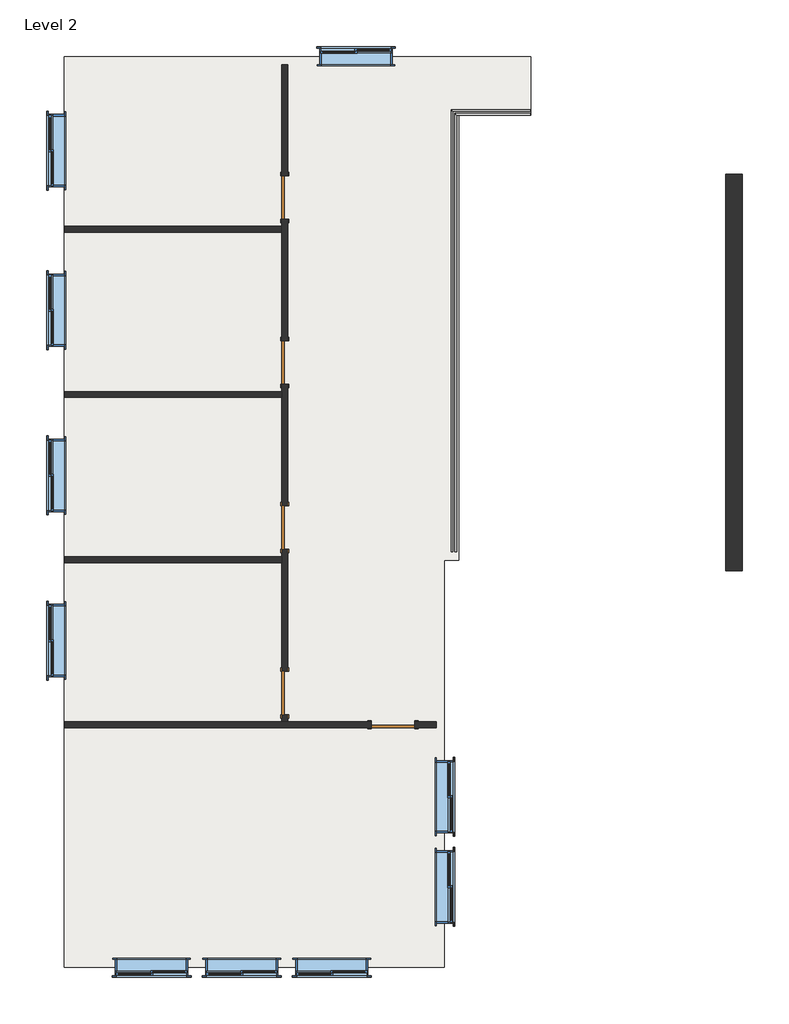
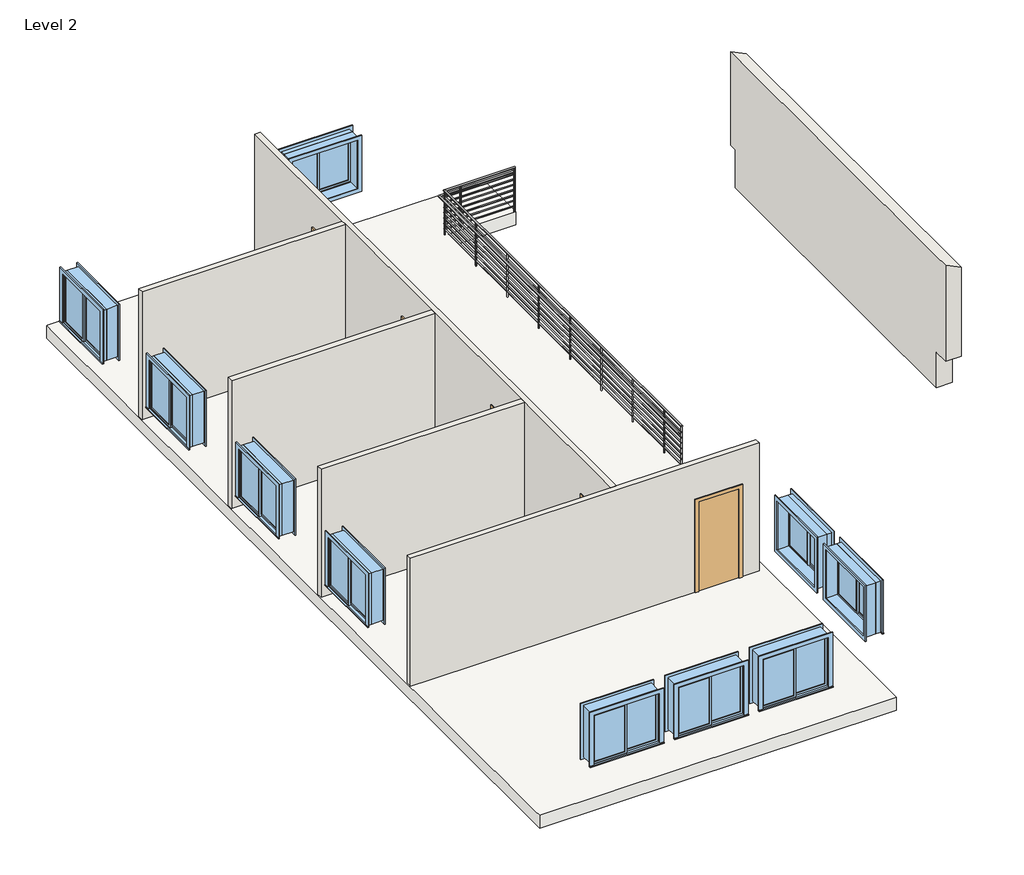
# One storey: 10 windows, 6 walls, 5 doors, 1 railing, 1 slab.
"""IFC4 building model written with IfcOpenShell, lengths in millimetres."""

from ifc_helpers import new_model, si_unit, point, frame, frame_2d, origin, place, context, project, spatial, polyline, circle_curve, ellipse_curve, trimmed, segment, composite_curve, outline, extrude, faceted_brep, transform, mapped, element, save
from ifc_brep_helpers import plane_surface, cylinder_surface, advanced_brep
from components import door_eb9f8b14, window_8313e728

model = new_model("IFC4")

# Units and contexts
model_context = context("Model", 3, world=origin())
ifc_project = project(units=[si_unit("LENGTHUNIT", "METRE", prefix="MILLI")], contexts=[model_context])

# Site, building, storey
site = spatial("IfcSite", under=ifc_project)
building = spatial("IfcBuilding", under=site)
storey = spatial("IfcBuildingStorey", under=building, Name="Level 2", Elevation=3060.0)

# Doors
placement = place(None, origin())
door_shape = door_eb9f8b14(model_context)
element("IfcDoor", 1, ObjectType="Single-Flush : 36\" x 84\"", at=placement, inside=storey, context=model_context, shape_type="MappedRepresentation", body=[
    mapped(door_shape, transform((-6668.5516552, -3294.8769576, 3060.0), x_axis=(1.0, 0.0, 0.0), y_axis=(0.0, 1.0, 0.0), z_axis=(0.0, 0.0, 1.0))),
])
element("IfcDoor", 2, ObjectType="Single-Flush : 36\" x 84\"", at=placement, inside=storey, context=model_context, shape_type="MappedRepresentation", body=[
    mapped(door_shape, transform((-8949.7891552, -2623.3644576, 3060.0), x_axis=(0.0, -1.0, 0.0), y_axis=(1.0, 0.0, 0.0), z_axis=(0.0, 0.0, 1.0))),
])
element("IfcDoor", 3, ObjectType="Single-Flush : 36\" x 84\"", at=placement, inside=storey, context=model_context, shape_type="MappedRepresentation", body=[
    mapped(door_shape, transform((-8949.7891552, 862.7855424, 3060.0), x_axis=(0.0, -1.0, 0.0), y_axis=(1.0, 0.0, 0.0), z_axis=(0.0, 0.0, 1.0))),
])
element("IfcDoor", 4, ObjectType="Single-Flush : 36\" x 84\"", at=placement, inside=storey, context=model_context, shape_type="MappedRepresentation", body=[
    mapped(door_shape, transform((-8949.7891552, 4339.4105424, 3060.0), x_axis=(0.0, -1.0, 0.0), y_axis=(1.0, 0.0, 0.0), z_axis=(0.0, 0.0, 1.0))),
])
element("IfcDoor", 5, ObjectType="Single-Flush : 36\" x 84\"", at=placement, inside=storey, context=model_context, shape_type="MappedRepresentation", body=[
    mapped(door_shape, transform((-8949.7891552, 7820.7980424, 3060.0), x_axis=(0.0, -1.0, 0.0), y_axis=(1.0, 0.0, 0.0), z_axis=(0.0, 0.0, 1.0))),
])

# Railing
element("IfcRailing", 6, ObjectType="Guardrail - Pipe", at=placement, inside=storey, context=model_context, shape_type="SolidModel", body=[
    advanced_brep(
    [(-3772.9516552, 9668.827236, 3955.35), (-3772.9516552, 9630.727236, 3955.35), (-5443.0016552, 9668.827236, 3955.35), (-5404.9016552, 9630.727236, 3955.35), (-5443.0016552, 353.377236, 3955.35), (-5404.9016552, 353.377236, 3955.35)],
    [
        (0, 1, circle_curve(frame((-3772.9516552, 9649.777236, 3955.35), z_axis=(1.0, 0.0, 0.0), x_axis=(0.0, -1.0, 0.0)), 19.05)),
        (1, 0, circle_curve(frame((-3772.9516552, 9649.777236, 3955.35), z_axis=(1.0, 0.0, 0.0), x_axis=(0.0, -1.0, 0.0)), 19.05)),
        (0, 2),
        (2, 3, ellipse_curve(frame((-5423.9516552, 9649.777236, 3955.35), z_axis=(0.7071067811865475, 0.7071067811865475, 0.0), x_axis=(0.7071067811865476, -0.7071067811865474, 0.0)), 26.9407684, 19.05)),
        (3, 1),
        (3, 2, ellipse_curve(frame((-5423.9516552, 9649.777236, 3955.35), z_axis=(0.7071067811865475, 0.7071067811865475, 0.0), x_axis=(0.7071067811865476, -0.7071067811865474, 0.0)), 26.9407684, 19.05)),
        (4, 5, circle_curve(frame((-5423.9516552, 353.377236, 3955.35), z_axis=(0.0, -1.0, 0.0), x_axis=(1.0, 0.0, 0.0)), 19.05)),
        (5, 4, circle_curve(frame((-5423.9516552, 353.377236, 3955.35), z_axis=(0.0, -1.0, 0.0), x_axis=(1.0, 0.0, 0.0)), 19.05)),
        (2, 4),
        (5, 3),
    ],
    [
        plane_surface(frame((-3772.9516552, 9649.777236, 3974.4), z_axis=(1.0, 0.0, 0.0), x_axis=(0.0, -1.0, 0.0))),
        cylinder_surface(frame((-3772.9516552, 9649.777236, 3955.35), z_axis=(1.0, 0.0, 0.0), x_axis=(0.0, -1.0, 0.0)), 19.05),
        plane_surface(frame((-5423.9516552, 353.377236, 3974.4), z_axis=(0.0, -1.0, 0.0), x_axis=(0.0, 0.0, -1.0))),
        cylinder_surface(frame((-5423.9516552, 9649.777236, 3955.35), z_axis=(0.0, 1.0, 0.0), x_axis=(1.0, 0.0, 0.0)), 19.05),
    ],
    [
        (0, [[1, 2]]),
        (1, [[-1, 3, 4, 5]]),
        (1, [[-2, -5, 6, -3]]),
        (2, [[7, 8]]),
        (3, [[-4, 9, -8, 10]]),
        (3, [[-6, -10, -7, -9]]),
    ],
),
    advanced_brep(
    [(-3772.9516552, 9592.627236, 4107.75), (-3772.9516552, 9554.527236, 4107.75), (-5366.8016552, 9592.627236, 4107.75), (-5328.7016552, 9554.527236, 4107.75), (-5366.8016552, 353.377236, 4107.75), (-5328.7016552, 353.377236, 4107.75)],
    [
        (0, 1, circle_curve(frame((-3772.9516552, 9573.577236, 4107.75), z_axis=(1.0, 0.0, 0.0), x_axis=(0.0, -1.0, 0.0)), 19.05)),
        (1, 0, circle_curve(frame((-3772.9516552, 9573.577236, 4107.75), z_axis=(1.0, 0.0, 0.0), x_axis=(0.0, -1.0, 0.0)), 19.05)),
        (0, 2),
        (2, 3, ellipse_curve(frame((-5347.7516552, 9573.577236, 4107.75), z_axis=(0.7071067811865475, 0.7071067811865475, 0.0), x_axis=(0.7071067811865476, -0.7071067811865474, 0.0)), 26.9407684, 19.05)),
        (3, 1),
        (3, 2, ellipse_curve(frame((-5347.7516552, 9573.577236, 4107.75), z_axis=(0.7071067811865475, 0.7071067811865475, 0.0), x_axis=(0.7071067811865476, -0.7071067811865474, 0.0)), 26.9407684, 19.05)),
        (4, 5, circle_curve(frame((-5347.7516552, 353.377236, 4107.75), z_axis=(0.0, -1.0, 0.0), x_axis=(1.0, 0.0, 0.0)), 19.05)),
        (5, 4, circle_curve(frame((-5347.7516552, 353.377236, 4107.75), z_axis=(0.0, -1.0, 0.0), x_axis=(1.0, 0.0, 0.0)), 19.05)),
        (2, 4),
        (5, 3),
    ],
    [
        plane_surface(frame((-3772.9516552, 9573.577236, 4126.8), z_axis=(1.0, 0.0, 0.0), x_axis=(0.0, -1.0, 0.0))),
        cylinder_surface(frame((-3772.9516552, 9573.577236, 4107.75), z_axis=(1.0, 0.0, 0.0), x_axis=(0.0, -1.0, 0.0)), 19.05),
        plane_surface(frame((-5347.7516552, 353.377236, 4126.8), z_axis=(0.0, -1.0, 0.0), x_axis=(0.0, 0.0, -1.0))),
        cylinder_surface(frame((-5347.7516552, 9573.577236, 4107.75), z_axis=(0.0, 1.0, 0.0), x_axis=(1.0, 0.0, 0.0)), 19.05),
    ],
    [
        (0, [[1, 2]]),
        (1, [[-1, 3, 4, 5]]),
        (1, [[-2, -5, 6, -3]]),
        (2, [[7, 8]]),
        (3, [[-4, 9, -8, 10]]),
        (3, [[-6, -10, -7, -9]]),
    ],
),
    advanced_brep(
    [(-3772.9516552, 9586.277236, 3961.7), (-3772.9516552, 9560.877236, 3961.7), (-5335.0516552, 9560.877236, 3961.7), (-5360.4516552, 9586.277236, 3961.7), (-5360.4516552, 353.377236, 3961.7), (-5335.0516552, 353.377236, 3961.7)],
    [
        (0, 1, circle_curve(frame((-3772.9516552, 9573.577236, 3961.7), z_axis=(1.0, 0.0, 0.0), x_axis=(0.0, -1.0, 0.0)), 12.7)),
        (1, 0, circle_curve(frame((-3772.9516552, 9573.577236, 3961.7), z_axis=(1.0, 0.0, 0.0), x_axis=(0.0, -1.0, 0.0)), 12.7)),
        (1, 2),
        (2, 3, ellipse_curve(frame((-5347.7516552, 9573.577236, 3961.7), z_axis=(0.7071067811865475, 0.7071067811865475, 0.0), x_axis=(0.7071067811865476, -0.7071067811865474, 0.0)), 17.9605122, 12.7)),
        (3, 0),
        (3, 2, ellipse_curve(frame((-5347.7516552, 9573.577236, 3961.7), z_axis=(0.7071067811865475, 0.7071067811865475, 0.0), x_axis=(0.7071067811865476, -0.7071067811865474, 0.0)), 17.9605122, 12.7)),
        (4, 5, circle_curve(frame((-5347.7516552, 353.377236, 3961.7), z_axis=(0.0, -1.0, 0.0), x_axis=(1.0, 0.0, 0.0)), 12.7)),
        (5, 4, circle_curve(frame((-5347.7516552, 353.377236, 3961.7), z_axis=(0.0, -1.0, 0.0), x_axis=(1.0, 0.0, 0.0)), 12.7)),
        (2, 5),
        (4, 3),
    ],
    [
        plane_surface(frame((-3772.9516552, 9573.577236, 3974.4), z_axis=(1.0, 0.0, 0.0), x_axis=(0.0, -1.0, 0.0))),
        cylinder_surface(frame((-3772.9516552, 9573.577236, 3961.7), z_axis=(1.0, 0.0, 0.0), x_axis=(0.0, -1.0, 0.0)), 12.7),
        plane_surface(frame((-5347.7516552, 353.377236, 3974.4), z_axis=(0.0, -1.0, 0.0), x_axis=(0.0, 0.0, -1.0))),
        cylinder_surface(frame((-5347.7516552, 9573.577236, 3961.7), z_axis=(0.0, 1.0, 0.0), x_axis=(1.0, 0.0, 0.0)), 12.7),
    ],
    [
        (0, [[1, 2]]),
        (1, [[-2, 3, 4, 5]]),
        (1, [[-1, -5, 6, -3]]),
        (2, [[7, 8]]),
        (3, [[-4, 9, -7, 10]]),
        (3, [[-6, -10, -8, -9]]),
    ],
),
    advanced_brep(
    [(-3772.9516552, 9586.277236, 3834.7), (-3772.9516552, 9560.877236, 3834.7), (-5335.0516552, 9560.877236, 3834.7), (-5360.4516552, 9586.277236, 3834.7), (-5360.4516552, 353.377236, 3834.7), (-5335.0516552, 353.377236, 3834.7)],
    [
        (0, 1, circle_curve(frame((-3772.9516552, 9573.577236, 3834.7), z_axis=(1.0, 0.0, 0.0), x_axis=(0.0, -1.0, 0.0)), 12.7)),
        (1, 0, circle_curve(frame((-3772.9516552, 9573.577236, 3834.7), z_axis=(1.0, 0.0, 0.0), x_axis=(0.0, -1.0, 0.0)), 12.7)),
        (1, 2),
        (2, 3, ellipse_curve(frame((-5347.7516552, 9573.577236, 3834.7), z_axis=(0.7071067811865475, 0.7071067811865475, 0.0), x_axis=(0.7071067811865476, -0.7071067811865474, 0.0)), 17.9605122, 12.7)),
        (3, 0),
        (3, 2, ellipse_curve(frame((-5347.7516552, 9573.577236, 3834.7), z_axis=(0.7071067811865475, 0.7071067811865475, 0.0), x_axis=(0.7071067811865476, -0.7071067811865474, 0.0)), 17.9605122, 12.7)),
        (4, 5, circle_curve(frame((-5347.7516552, 353.377236, 3834.7), z_axis=(0.0, -1.0, 0.0), x_axis=(1.0, 0.0, 0.0)), 12.7)),
        (5, 4, circle_curve(frame((-5347.7516552, 353.377236, 3834.7), z_axis=(0.0, -1.0, 0.0), x_axis=(1.0, 0.0, 0.0)), 12.7)),
        (2, 5),
        (4, 3),
    ],
    [
        plane_surface(frame((-3772.9516552, 9573.577236, 3847.4), z_axis=(1.0, 0.0, 0.0), x_axis=(0.0, -1.0, 0.0))),
        cylinder_surface(frame((-3772.9516552, 9573.577236, 3834.7), z_axis=(1.0, 0.0, 0.0), x_axis=(0.0, -1.0, 0.0)), 12.7),
        plane_surface(frame((-5347.7516552, 353.377236, 3847.4), z_axis=(0.0, -1.0, 0.0), x_axis=(0.0, 0.0, -1.0))),
        cylinder_surface(frame((-5347.7516552, 9573.577236, 3834.7), z_axis=(0.0, 1.0, 0.0), x_axis=(1.0, 0.0, 0.0)), 12.7),
    ],
    [
        (0, [[1, 2]]),
        (1, [[-2, 3, 4, 5]]),
        (1, [[-1, -5, 6, -3]]),
        (2, [[7, 8]]),
        (3, [[-4, 9, -7, 10]]),
        (3, [[-6, -10, -8, -9]]),
    ],
),
    advanced_brep(
    [(-3772.9516552, 9586.277236, 3707.7), (-3772.9516552, 9560.877236, 3707.7), (-5335.0516552, 9560.877236, 3707.7), (-5360.4516552, 9586.277236, 3707.7), (-5360.4516552, 353.377236, 3707.7), (-5335.0516552, 353.377236, 3707.7)],
    [
        (0, 1, circle_curve(frame((-3772.9516552, 9573.577236, 3707.7), z_axis=(1.0, 0.0, 0.0), x_axis=(0.0, -1.0, 0.0)), 12.7)),
        (1, 0, circle_curve(frame((-3772.9516552, 9573.577236, 3707.7), z_axis=(1.0, 0.0, 0.0), x_axis=(0.0, -1.0, 0.0)), 12.7)),
        (1, 2),
        (2, 3, ellipse_curve(frame((-5347.7516552, 9573.577236, 3707.7), z_axis=(0.7071067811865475, 0.7071067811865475, 0.0), x_axis=(0.7071067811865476, -0.7071067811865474, 0.0)), 17.9605122, 12.7)),
        (3, 0),
        (3, 2, ellipse_curve(frame((-5347.7516552, 9573.577236, 3707.7), z_axis=(0.7071067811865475, 0.7071067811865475, 0.0), x_axis=(0.7071067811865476, -0.7071067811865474, 0.0)), 17.9605122, 12.7)),
        (4, 5, circle_curve(frame((-5347.7516552, 353.377236, 3707.7), z_axis=(0.0, -1.0, 0.0), x_axis=(1.0, 0.0, 0.0)), 12.7)),
        (5, 4, circle_curve(frame((-5347.7516552, 353.377236, 3707.7), z_axis=(0.0, -1.0, 0.0), x_axis=(1.0, 0.0, 0.0)), 12.7)),
        (2, 5),
        (4, 3),
    ],
    [
        plane_surface(frame((-3772.9516552, 9573.577236, 3720.4), z_axis=(1.0, 0.0, 0.0), x_axis=(0.0, -1.0, 0.0))),
        cylinder_surface(frame((-3772.9516552, 9573.577236, 3707.7), z_axis=(1.0, 0.0, 0.0), x_axis=(0.0, -1.0, 0.0)), 12.7),
        plane_surface(frame((-5347.7516552, 353.377236, 3720.4), z_axis=(0.0, -1.0, 0.0), x_axis=(0.0, 0.0, -1.0))),
        cylinder_surface(frame((-5347.7516552, 9573.577236, 3707.7), z_axis=(0.0, 1.0, 0.0), x_axis=(1.0, 0.0, 0.0)), 12.7),
    ],
    [
        (0, [[1, 2]]),
        (1, [[-2, 3, 4, 5]]),
        (1, [[-1, -5, 6, -3]]),
        (2, [[7, 8]]),
        (3, [[-4, 9, -7, 10]]),
        (3, [[-6, -10, -8, -9]]),
    ],
),
    advanced_brep(
    [(-3772.9516552, 9586.277236, 3580.7), (-3772.9516552, 9560.877236, 3580.7), (-5335.0516552, 9560.877236, 3580.7), (-5360.4516552, 9586.277236, 3580.7), (-5360.4516552, 353.377236, 3580.7), (-5335.0516552, 353.377236, 3580.7)],
    [
        (0, 1, circle_curve(frame((-3772.9516552, 9573.577236, 3580.7), z_axis=(1.0, 0.0, 0.0), x_axis=(0.0, -1.0, 0.0)), 12.7)),
        (1, 0, circle_curve(frame((-3772.9516552, 9573.577236, 3580.7), z_axis=(1.0, 0.0, 0.0), x_axis=(0.0, -1.0, 0.0)), 12.7)),
        (1, 2),
        (2, 3, ellipse_curve(frame((-5347.7516552, 9573.577236, 3580.7), z_axis=(0.7071067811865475, 0.7071067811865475, 0.0), x_axis=(0.7071067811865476, -0.7071067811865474, 0.0)), 17.9605122, 12.7)),
        (3, 0),
        (3, 2, ellipse_curve(frame((-5347.7516552, 9573.577236, 3580.7), z_axis=(0.7071067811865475, 0.7071067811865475, 0.0), x_axis=(0.7071067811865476, -0.7071067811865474, 0.0)), 17.9605122, 12.7)),
        (4, 5, circle_curve(frame((-5347.7516552, 353.377236, 3580.7), z_axis=(0.0, -1.0, 0.0), x_axis=(1.0, 0.0, 0.0)), 12.7)),
        (5, 4, circle_curve(frame((-5347.7516552, 353.377236, 3580.7), z_axis=(0.0, -1.0, 0.0), x_axis=(1.0, 0.0, 0.0)), 12.7)),
        (2, 5),
        (4, 3),
    ],
    [
        plane_surface(frame((-3772.9516552, 9573.577236, 3593.4), z_axis=(1.0, 0.0, 0.0), x_axis=(0.0, -1.0, 0.0))),
        cylinder_surface(frame((-3772.9516552, 9573.577236, 3580.7), z_axis=(1.0, 0.0, 0.0), x_axis=(0.0, -1.0, 0.0)), 12.7),
        plane_surface(frame((-5347.7516552, 353.377236, 3593.4), z_axis=(0.0, -1.0, 0.0), x_axis=(0.0, 0.0, -1.0))),
        cylinder_surface(frame((-5347.7516552, 9573.577236, 3580.7), z_axis=(0.0, 1.0, 0.0), x_axis=(1.0, 0.0, 0.0)), 12.7),
    ],
    [
        (0, [[1, 2]]),
        (1, [[-2, 3, 4, 5]]),
        (1, [[-1, -5, 6, -3]]),
        (2, [[7, 8]]),
        (3, [[-4, 9, -7, 10]]),
        (3, [[-6, -10, -8, -9]]),
    ],
),
    advanced_brep(
    [(-3772.9516552, 9586.277236, 3453.7), (-3772.9516552, 9560.877236, 3453.7), (-5335.0516552, 9560.877236, 3453.7), (-5360.4516552, 9586.277236, 3453.7), (-5360.4516552, 353.377236, 3453.7), (-5335.0516552, 353.377236, 3453.7)],
    [
        (0, 1, circle_curve(frame((-3772.9516552, 9573.577236, 3453.7), z_axis=(1.0, 0.0, 0.0), x_axis=(0.0, -1.0, 0.0)), 12.7)),
        (1, 0, circle_curve(frame((-3772.9516552, 9573.577236, 3453.7), z_axis=(1.0, 0.0, 0.0), x_axis=(0.0, -1.0, 0.0)), 12.7)),
        (1, 2),
        (2, 3, ellipse_curve(frame((-5347.7516552, 9573.577236, 3453.7), z_axis=(0.7071067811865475, 0.7071067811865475, 0.0), x_axis=(0.7071067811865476, -0.7071067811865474, 0.0)), 17.9605122, 12.7)),
        (3, 0),
        (3, 2, ellipse_curve(frame((-5347.7516552, 9573.577236, 3453.7), z_axis=(0.7071067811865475, 0.7071067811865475, 0.0), x_axis=(0.7071067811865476, -0.7071067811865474, 0.0)), 17.9605122, 12.7)),
        (4, 5, circle_curve(frame((-5347.7516552, 353.377236, 3453.7), z_axis=(0.0, -1.0, 0.0), x_axis=(1.0, 0.0, 0.0)), 12.7)),
        (5, 4, circle_curve(frame((-5347.7516552, 353.377236, 3453.7), z_axis=(0.0, -1.0, 0.0), x_axis=(1.0, 0.0, 0.0)), 12.7)),
        (2, 5),
        (4, 3),
    ],
    [
        plane_surface(frame((-3772.9516552, 9573.577236, 3466.4), z_axis=(1.0, 0.0, 0.0), x_axis=(0.0, -1.0, 0.0))),
        cylinder_surface(frame((-3772.9516552, 9573.577236, 3453.7), z_axis=(1.0, 0.0, 0.0), x_axis=(0.0, -1.0, 0.0)), 12.7),
        plane_surface(frame((-5347.7516552, 353.377236, 3466.4), z_axis=(0.0, -1.0, 0.0), x_axis=(0.0, 0.0, -1.0))),
        cylinder_surface(frame((-5347.7516552, 9573.577236, 3453.7), z_axis=(0.0, 1.0, 0.0), x_axis=(1.0, 0.0, 0.0)), 12.7),
    ],
    [
        (0, [[1, 2]]),
        (1, [[-2, 3, 4, 5]]),
        (1, [[-1, -5, 6, -3]]),
        (2, [[7, 8]]),
        (3, [[-4, 9, -7, 10]]),
        (3, [[-6, -10, -8, -9]]),
    ],
),
    advanced_brep(
    [(-3772.9516552, 9586.277236, 3326.7), (-3772.9516552, 9560.877236, 3326.7), (-5335.0516552, 9560.877236, 3326.7), (-5360.4516552, 9586.277236, 3326.7), (-5360.4516552, 353.377236, 3326.7), (-5335.0516552, 353.377236, 3326.7)],
    [
        (0, 1, circle_curve(frame((-3772.9516552, 9573.577236, 3326.7), z_axis=(1.0, 0.0, 0.0), x_axis=(0.0, -1.0, 0.0)), 12.7)),
        (1, 0, circle_curve(frame((-3772.9516552, 9573.577236, 3326.7), z_axis=(1.0, 0.0, 0.0), x_axis=(0.0, -1.0, 0.0)), 12.7)),
        (1, 2),
        (2, 3, ellipse_curve(frame((-5347.7516552, 9573.577236, 3326.7), z_axis=(0.7071067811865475, 0.7071067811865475, 0.0), x_axis=(0.7071067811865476, -0.7071067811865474, 0.0)), 17.9605122, 12.7)),
        (3, 0),
        (3, 2, ellipse_curve(frame((-5347.7516552, 9573.577236, 3326.7), z_axis=(0.7071067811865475, 0.7071067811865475, 0.0), x_axis=(0.7071067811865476, -0.7071067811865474, 0.0)), 17.9605122, 12.7)),
        (4, 5, circle_curve(frame((-5347.7516552, 353.377236, 3326.7), z_axis=(0.0, -1.0, 0.0), x_axis=(1.0, 0.0, 0.0)), 12.7)),
        (5, 4, circle_curve(frame((-5347.7516552, 353.377236, 3326.7), z_axis=(0.0, -1.0, 0.0), x_axis=(1.0, 0.0, 0.0)), 12.7)),
        (2, 5),
        (4, 3),
    ],
    [
        plane_surface(frame((-3772.9516552, 9573.577236, 3339.4), z_axis=(1.0, 0.0, 0.0), x_axis=(0.0, -1.0, 0.0))),
        cylinder_surface(frame((-3772.9516552, 9573.577236, 3326.7), z_axis=(1.0, 0.0, 0.0), x_axis=(0.0, -1.0, 0.0)), 12.7),
        plane_surface(frame((-5347.7516552, 353.377236, 3339.4), z_axis=(0.0, -1.0, 0.0), x_axis=(0.0, 0.0, -1.0))),
        cylinder_surface(frame((-5347.7516552, 9573.577236, 3326.7), z_axis=(0.0, 1.0, 0.0), x_axis=(1.0, 0.0, 0.0)), 12.7),
    ],
    [
        (0, [[1, 2]]),
        (1, [[-2, 3, 4, 5]]),
        (1, [[-1, -5, 6, -3]]),
        (2, [[7, 8]]),
        (3, [[-4, 9, -7, 10]]),
        (3, [[-6, -10, -8, -9]]),
    ],
),
    advanced_brep(
    [(-3772.9516552, 9586.277236, 3199.7), (-3772.9516552, 9560.877236, 3199.7), (-5335.0516552, 9560.877236, 3199.7), (-5360.4516552, 9586.277236, 3199.7), (-5360.4516552, 353.377236, 3199.7), (-5335.0516552, 353.377236, 3199.7)],
    [
        (0, 1, circle_curve(frame((-3772.9516552, 9573.577236, 3199.7), z_axis=(1.0, 0.0, 0.0), x_axis=(0.0, -1.0, 0.0)), 12.7)),
        (1, 0, circle_curve(frame((-3772.9516552, 9573.577236, 3199.7), z_axis=(1.0, 0.0, 0.0), x_axis=(0.0, -1.0, 0.0)), 12.7)),
        (1, 2),
        (2, 3, ellipse_curve(frame((-5347.7516552, 9573.577236, 3199.7), z_axis=(0.7071067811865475, 0.7071067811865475, 0.0), x_axis=(0.7071067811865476, -0.7071067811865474, 0.0)), 17.9605122, 12.7)),
        (3, 0),
        (3, 2, ellipse_curve(frame((-5347.7516552, 9573.577236, 3199.7), z_axis=(0.7071067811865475, 0.7071067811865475, 0.0), x_axis=(0.7071067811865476, -0.7071067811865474, 0.0)), 17.9605122, 12.7)),
        (4, 5, circle_curve(frame((-5347.7516552, 353.377236, 3199.7), z_axis=(0.0, -1.0, 0.0), x_axis=(1.0, 0.0, 0.0)), 12.7)),
        (5, 4, circle_curve(frame((-5347.7516552, 353.377236, 3199.7), z_axis=(0.0, -1.0, 0.0), x_axis=(1.0, 0.0, 0.0)), 12.7)),
        (2, 5),
        (4, 3),
    ],
    [
        plane_surface(frame((-3772.9516552, 9573.577236, 3212.4), z_axis=(1.0, 0.0, 0.0), x_axis=(0.0, -1.0, 0.0))),
        cylinder_surface(frame((-3772.9516552, 9573.577236, 3199.7), z_axis=(1.0, 0.0, 0.0), x_axis=(0.0, -1.0, 0.0)), 12.7),
        plane_surface(frame((-5347.7516552, 353.377236, 3212.4), z_axis=(0.0, -1.0, 0.0), x_axis=(0.0, 0.0, -1.0))),
        cylinder_surface(frame((-5347.7516552, 9573.577236, 3199.7), z_axis=(0.0, 1.0, 0.0), x_axis=(1.0, 0.0, 0.0)), 12.7),
    ],
    [
        (0, [[1, 2]]),
        (1, [[-2, 3, 4, 5]]),
        (1, [[-1, -5, 6, -3]]),
        (2, [[7, 8]]),
        (3, [[-4, 9, -7, 10]]),
        (3, [[-6, -10, -8, -9]]),
    ],
),
    extrude(outline(composite_curve([segment(trimmed(circle_curve(frame_2d((-5347.7516552, 1039.177236)), 12.7), [point((-5360.4516552, 1039.177236))], [point((-5335.0516552, 1039.177236))], False, "CARTESIAN"), True, "CONTINUOUS"), segment(trimmed(circle_curve(frame_2d((-5347.7516552, 1039.177236)), 12.7), [point((-5335.0516552, 1039.177236))], [point((-5360.4516552, 1039.177236))], False, "CARTESIAN"), True, "CONTINUOUS")], self_intersect=False)), frame((0.0, 0.0, 3060.0), z_axis=(0.0, 0.0, 1.0), x_axis=(1.0, 0.0, 0.0)), (0.0, 0.0, 1.0), 1028.7),
    extrude(outline(composite_curve([segment(trimmed(circle_curve(frame_2d((-5347.7516552, 2258.377236)), 12.7), [point((-5360.4516552, 2258.377236))], [point((-5335.0516552, 2258.377236))], False, "CARTESIAN"), True, "CONTINUOUS"), segment(trimmed(circle_curve(frame_2d((-5347.7516552, 2258.377236)), 12.7), [point((-5335.0516552, 2258.377236))], [point((-5360.4516552, 2258.377236))], False, "CARTESIAN"), True, "CONTINUOUS")], self_intersect=False)), frame((0.0, 0.0, 3060.0), z_axis=(0.0, 0.0, 1.0), x_axis=(1.0, 0.0, 0.0)), (0.0, 0.0, 1.0), 1028.7),
    extrude(outline(composite_curve([segment(trimmed(circle_curve(frame_2d((-5347.7516552, 3477.577236)), 12.7), [point((-5360.4516552, 3477.577236))], [point((-5335.0516552, 3477.577236))], False, "CARTESIAN"), True, "CONTINUOUS"), segment(trimmed(circle_curve(frame_2d((-5347.7516552, 3477.577236)), 12.7), [point((-5335.0516552, 3477.577236))], [point((-5360.4516552, 3477.577236))], False, "CARTESIAN"), True, "CONTINUOUS")], self_intersect=False)), frame((0.0, 0.0, 3060.0), z_axis=(0.0, 0.0, 1.0), x_axis=(1.0, 0.0, 0.0)), (0.0, 0.0, 1.0), 1028.7),
    extrude(outline(composite_curve([segment(trimmed(circle_curve(frame_2d((-5347.7516552, 4696.777236)), 12.7), [point((-5360.4516552, 4696.777236))], [point((-5335.0516552, 4696.777236))], False, "CARTESIAN"), True, "CONTINUOUS"), segment(trimmed(circle_curve(frame_2d((-5347.7516552, 4696.777236)), 12.7), [point((-5335.0516552, 4696.777236))], [point((-5360.4516552, 4696.777236))], False, "CARTESIAN"), True, "CONTINUOUS")], self_intersect=False)), frame((0.0, 0.0, 3060.0), z_axis=(0.0, 0.0, 1.0), x_axis=(1.0, 0.0, 0.0)), (0.0, 0.0, 1.0), 1028.7),
    extrude(outline(composite_curve([segment(trimmed(circle_curve(frame_2d((-5347.7516552, 5915.977236)), 12.7), [point((-5360.4516552, 5915.977236))], [point((-5335.0516552, 5915.977236))], False, "CARTESIAN"), True, "CONTINUOUS"), segment(trimmed(circle_curve(frame_2d((-5347.7516552, 5915.977236)), 12.7), [point((-5335.0516552, 5915.977236))], [point((-5360.4516552, 5915.977236))], False, "CARTESIAN"), True, "CONTINUOUS")], self_intersect=False)), frame((0.0, 0.0, 3060.0), z_axis=(0.0, 0.0, 1.0), x_axis=(1.0, 0.0, 0.0)), (0.0, 0.0, 1.0), 1028.7),
    extrude(outline(composite_curve([segment(trimmed(circle_curve(frame_2d((-5347.7516552, 7135.177236)), 12.7), [point((-5360.4516552, 7135.177236))], [point((-5335.0516552, 7135.177236))], False, "CARTESIAN"), True, "CONTINUOUS"), segment(trimmed(circle_curve(frame_2d((-5347.7516552, 7135.177236)), 12.7), [point((-5335.0516552, 7135.177236))], [point((-5360.4516552, 7135.177236))], False, "CARTESIAN"), True, "CONTINUOUS")], self_intersect=False)), frame((0.0, 0.0, 3060.0), z_axis=(0.0, 0.0, 1.0), x_axis=(1.0, 0.0, 0.0)), (0.0, 0.0, 1.0), 1028.7),
    extrude(outline(composite_curve([segment(trimmed(circle_curve(frame_2d((-5347.7516552, 8354.377236)), 12.7), [point((-5360.4516552, 8354.377236))], [point((-5335.0516552, 8354.377236))], False, "CARTESIAN"), True, "CONTINUOUS"), segment(trimmed(circle_curve(frame_2d((-5347.7516552, 8354.377236)), 12.7), [point((-5335.0516552, 8354.377236))], [point((-5360.4516552, 8354.377236))], False, "CARTESIAN"), True, "CONTINUOUS")], self_intersect=False)), frame((0.0, 0.0, 3060.0), z_axis=(0.0, 0.0, 1.0), x_axis=(1.0, 0.0, 0.0)), (0.0, 0.0, 1.0), 1028.7),
    extrude(outline(composite_curve([segment(trimmed(circle_curve(frame_2d((-4992.1516552, 9573.577236)), 12.7), [point((-4992.1516552, 9586.277236))], [point((-4992.1516552, 9560.877236))], False, "CARTESIAN"), True, "CONTINUOUS"), segment(trimmed(circle_curve(frame_2d((-4992.1516552, 9573.577236)), 12.7), [point((-4992.1516552, 9560.877236))], [point((-4992.1516552, 9586.277236))], False, "CARTESIAN"), True, "CONTINUOUS")], self_intersect=False)), frame((0.0, 0.0, 3060.0), z_axis=(0.0, 0.0, 1.0), x_axis=(1.0, 0.0, 0.0)), (0.0, 0.0, 1.0), 1028.7),
    extrude(outline(composite_curve([segment(trimmed(circle_curve(frame_2d((-5347.7516552, 9573.577236)), 12.7), [point((-5347.7516552, 9586.277236))], [point((-5347.7516552, 9560.877236))], False, "CARTESIAN"), True, "CONTINUOUS"), segment(trimmed(circle_curve(frame_2d((-5347.7516552, 9573.577236)), 12.7), [point((-5347.7516552, 9560.877236))], [point((-5347.7516552, 9586.277236))], False, "CARTESIAN"), True, "CONTINUOUS")], self_intersect=False)), frame((0.0, 0.0, 3060.0), z_axis=(0.0, 0.0, 1.0), x_axis=(1.0, 0.0, 0.0)), (0.0, 0.0, 1.0), 1028.7),
    extrude(outline(composite_curve([segment(trimmed(circle_curve(frame_2d((-5347.7516552, 366.077236)), 12.7), [point((-5360.4516552, 366.077236))], [point((-5335.0516552, 366.077236))], False, "CARTESIAN"), True, "CONTINUOUS"), segment(trimmed(circle_curve(frame_2d((-5347.7516552, 366.077236)), 12.7), [point((-5335.0516552, 366.077236))], [point((-5360.4516552, 366.077236))], False, "CARTESIAN"), True, "CONTINUOUS")], self_intersect=False)), frame((0.0, 0.0, 3060.0), z_axis=(0.0, 0.0, 1.0), x_axis=(1.0, 0.0, 0.0)), (0.0, 0.0, 1.0), 1028.7),
    extrude(outline(composite_curve([segment(trimmed(circle_curve(frame_2d((-3785.6516552, 9573.577236)), 12.7), [point((-3785.6516552, 9586.277236))], [point((-3785.6516552, 9560.877236))], False, "CARTESIAN"), True, "CONTINUOUS"), segment(trimmed(circle_curve(frame_2d((-3785.6516552, 9573.577236)), 12.7), [point((-3785.6516552, 9560.877236))], [point((-3785.6516552, 9586.277236))], False, "CARTESIAN"), True, "CONTINUOUS")], self_intersect=False)), frame((0.0, 0.0, 3060.0), z_axis=(0.0, 0.0, 1.0), x_axis=(1.0, 0.0, 0.0)), (0.0, 0.0, 1.0), 1028.7),
])

# Slab
element("IfcSlab", 7, ObjectType="Generic - 12\"", at=placement, inside=storey, context=model_context, shape_type="Brep", body=[
    faceted_brep([(-13596.4016552, 10779.8980424, 2755.2), (-13583.7016552, 10779.8980424, 2755.2), (-5347.7516552, 10779.8980424, 2755.2), (-3760.2516552, 10779.8980424, 2755.2), (-3760.2516552, 9554.527236, 2755.2), (-5284.2516552, 9554.527236, 2755.2), (-5284.2516552, 175.3980424, 2755.2), (-5401.7266552, 175.3980424, 2755.2), (-5589.0516552, 175.3980424, 2755.2), (-5589.0516552, -8398.6894576, 2755.2), (-5754.1516552, -8398.6894576, 2755.2), (-13596.4016552, -8398.6894576, 2755.2), (-13596.4016552, -8233.5894576, 2755.2), (-13596.4016552, 10779.8980424, 3060.0), (-13596.4016552, -8233.5894576, 3060.0), (-13596.4016552, -8398.6894576, 3060.0), (-5754.1516552, -8398.6894576, 3060.0), (-5589.0516552, -8398.6894576, 3060.0), (-5589.0516552, 175.3980424, 3060.0), (-5401.7266552, 175.3980424, 3060.0), (-5284.2516552, 175.3980424, 3060.0), (-5284.2516552, 9554.527236, 3060.0), (-3760.2516552, 9554.527236, 3060.0), (-3760.2516552, 10779.8980424, 3060.0), (-5347.7516552, 10779.8980424, 3060.0), (-13583.7016552, 10779.8980424, 3060.0)], [[[0, 1, 2, 3, 4, 5, 6, 7, 8, 9, 10, 11, 12]], [[13, 14, 15, 16, 17, 18, 19, 20, 21, 22, 23, 24, 25]], [[3, 2, 1, 0, 13, 25, 24, 23]], [[4, 3, 23, 22]], [[5, 4, 22, 21]], [[6, 5, 21, 20]], [[8, 7, 6, 20, 19, 18]], [[9, 8, 18, 17]], [[11, 10, 9, 17, 16, 15]], [[0, 12, 11, 15, 14, 13]]]),
])

# Walls
element("IfcWall", 8, ObjectType="Exterior - Brick on Mtl. Stud", at=placement, inside=storey, context=model_context, shape_type="Brep", body=[
    faceted_brep([(341.8483448, 8130.3605424, 3060.0), (341.8483448, 2791.5980424, 3060.0), (341.8483448, 300.8105424, 3060.0), (341.8483448, 300.8105424, 3900.0), (341.8483448, -51.6144576, 3900.0), (341.8483448, -51.6144576, 6182.55), (341.8483448, 300.8105424, 6182.55), (341.8483448, 8306.5730424, 6182.55), (341.8483448, 8306.5730424, 3958.7375), (341.8483448, 8130.3605424, 3958.7375), (694.2733448, 8130.3605424, 3060.0), (694.2733448, 8130.3605424, 3958.7375), (694.2733448, 8306.5730424, 3958.7375), (694.2733448, 8306.5730424, 6006.3375), (694.2733448, -51.6144576, 6006.3375), (694.2733448, -51.6144576, 4509.6), (694.2733448, -51.6144576, 3900.0), (694.2733448, 300.8105424, 3900.0), (694.2733448, 300.8105424, 3060.0), (694.2733448, 3434.5355424, 3060.0), (694.2733448, 3558.3605424, 3060.0), (465.6733448, 8130.3605424, 3060.0), (545.0483448, 8130.3605424, 3060.0)], [[[0, 1, 2, 3, 4, 5, 6, 7, 8, 9]], [[10, 11, 12, 13, 14, 15, 16, 17, 18, 19, 20]], [[2, 1, 0, 21, 22, 10, 20, 19, 18]], [[7, 6, 5, 14, 13]], [[8, 7, 13, 12]], [[8, 12, 11, 9]], [[0, 9, 11, 10, 22, 21]], [[16, 4, 3, 17]], [[3, 2, 18, 17]], [[5, 4, 16, 15, 14]]]),
])
element("IfcWall", 9, ObjectType="Interior - 4 7/8\" Partition (1-hr)", at=placement, inside=storey, context=model_context, shape_type="Brep", body=[
    faceted_brep([(-8887.8766552, 4796.6105424, 3060.0), (-8887.8766552, 7363.5980424, 3060.0), (-8887.8766552, 7363.5980424, 5193.6), (-8887.8766552, 8277.9980424, 5193.6), (-8887.8766552, 8277.9980424, 3060.0), (-8887.8766552, 10614.7980424, 3060.0), (-8887.8766552, 10614.7980424, 6100.0), (-8887.8766552, -3232.9644576, 6100.0), (-8887.8766552, -3232.9644576, 3060.0), (-8887.8766552, -3080.5644576, 3060.0), (-8887.8766552, -3080.5644576, 5193.6), (-8887.8766552, -2166.1644576, 5193.6), (-8887.8766552, -2166.1644576, 3060.0), (-8887.8766552, 405.5855424, 3060.0), (-8887.8766552, 405.5855424, 5193.6), (-8887.8766552, 1319.9855424, 5193.6), (-8887.8766552, 1319.9855424, 3060.0), (-8887.8766552, 3882.2105424, 3060.0), (-8887.8766552, 3882.2105424, 5193.6), (-8887.8766552, 4796.6105424, 5193.6), (-9011.7016552, 7363.5980424, 5193.6), (-9011.7016552, 7363.5980424, 3060.0), (-9011.7016552, 7211.1980424, 3060.0), (-9011.7016552, 7087.3730424, 3060.0), (-9011.7016552, 4796.6105424, 3060.0), (-9011.7016552, 4796.6105424, 5193.6), (-9011.7016552, 3882.2105424, 5193.6), (-9011.7016552, 3882.2105424, 3060.0), (-9011.7016552, 3729.8105424, 3060.0), (-9011.7016552, 3605.9855424, 3060.0), (-9011.7016552, 1319.9855424, 3060.0), (-9011.7016552, 1319.9855424, 5193.6), (-9011.7016552, 405.5855424, 5193.6), (-9011.7016552, 405.5855424, 3060.0), (-9011.7016552, 248.4230424, 3060.0), (-9011.7016552, 124.5980424, 3060.0), (-9011.7016552, -2166.1644576, 3060.0), (-9011.7016552, -2166.1644576, 5193.6), (-9011.7016552, -3080.5644576, 5193.6), (-9011.7016552, -3080.5644576, 3060.0), (-9011.7016552, -3232.9644576, 3060.0), (-9011.7016552, -3232.9644576, 6100.0), (-9011.7016552, 124.5980424, 6100.0), (-9011.7016552, 248.4230424, 6100.0), (-9011.7016552, 3605.9855424, 6100.0), (-9011.7016552, 3729.8105424, 6100.0), (-9011.7016552, 7087.3730424, 6100.0), (-9011.7016552, 7211.1980424, 6100.0), (-9011.7016552, 10614.7980424, 6100.0), (-9011.7016552, 10614.7980424, 3060.0), (-9011.7016552, 8277.9980424, 3060.0), (-9011.7016552, 8277.9980424, 5193.6)], [[[0, 1, 2, 3, 4, 5, 6, 7, 8, 9, 10, 11, 12, 13, 14, 15, 16, 17, 18, 19]], [[20, 21, 22, 23, 24, 25, 26, 27, 28, 29, 30, 31, 32, 33, 34, 35, 36, 37, 38, 39, 40, 41, 42, 43, 44, 45, 46, 47, 48, 49, 50, 51]], [[40, 39, 9, 8]], [[36, 35, 34, 33, 13, 12]], [[30, 29, 28, 27, 17, 16]], [[50, 49, 5, 4]], [[24, 23, 22, 21, 1, 0]], [[7, 6, 48, 47, 46, 45, 44, 43, 42, 41]], [[8, 7, 41, 40]], [[10, 9, 39, 38]], [[11, 10, 38, 37]], [[12, 11, 37, 36]], [[14, 13, 33, 32]], [[15, 14, 32, 31]], [[16, 15, 31, 30]], [[18, 17, 27, 26]], [[19, 18, 26, 25]], [[0, 19, 25, 24]], [[2, 1, 21, 20]], [[3, 2, 20, 51]], [[4, 3, 51, 50]], [[6, 5, 49, 48]]]),
])
element("IfcWall", 10, ObjectType="Interior - 4 7/8\" Partition (1-hr)", at=placement, inside=storey, context=model_context, shape_type="Brep", body=[
    faceted_brep([(-6211.3516552, -3356.7894576, 5193.6), (-6211.3516552, -3356.7894576, 3060.0), (-5754.1516552, -3356.7894576, 3060.0), (-5754.1516552, -3356.7894576, 6100.0), (-13177.3016552, -3356.7894576, 6100.0), (-13583.7016552, -3356.7894576, 6100.0), (-13583.7016552, -3356.7894576, 3060.0), (-13177.3016552, -3356.7894576, 3060.0), (-7125.7516552, -3356.7894576, 3060.0), (-7125.7516552, -3356.7894576, 5193.6), (-5754.1516552, -3232.9644576, 3060.0), (-6211.3516552, -3232.9644576, 3060.0), (-6211.3516552, -3232.9644576, 5193.6), (-7125.7516552, -3232.9644576, 5193.6), (-7125.7516552, -3232.9644576, 3060.0), (-8887.8766552, -3232.9644576, 3060.0), (-9011.7016552, -3232.9644576, 3060.0), (-13177.3016552, -3232.9644576, 3060.0), (-13583.7016552, -3232.9644576, 3060.0), (-13583.7016552, -3232.9644576, 6100.0), (-13177.3016552, -3232.9644576, 6100.0), (-9011.7016552, -3232.9644576, 6100.0), (-8887.8766552, -3232.9644576, 6100.0), (-5754.1516552, -3232.9644576, 6100.0)], [[[0, 1, 2, 3, 4, 5, 6, 7, 8, 9]], [[10, 11, 12, 13, 14, 15, 16, 17, 18, 19, 20, 21, 22, 23]], [[2, 1, 11, 10]], [[8, 7, 6, 18, 17, 16, 15, 14]], [[5, 4, 3, 23, 22, 21, 20, 19]], [[12, 11, 1, 0]], [[13, 12, 0, 9]], [[14, 13, 9, 8]], [[3, 2, 10, 23]], [[6, 5, 19, 18]]]),
])
element("IfcWall", 11, ObjectType="Interior - 4 7/8\" Partition (1-hr)", at=placement, inside=storey, context=model_context, shape_type="SweptSolid", body=[
    extrude(outline(polyline([(-9011.7016552, 124.5980424), (-13583.7016552, 124.5980424), (-13583.7016552, 248.4230424), (-9011.7016552, 248.4230424), (-9011.7016552, 124.5980424)])), frame((0.0, 0.0, 3060.0), z_axis=(0.0, 0.0, 1.0), x_axis=(1.0, 0.0, 0.0)), (0.0, 0.0, 1.0), 3040.0),
])
element("IfcWall", 12, ObjectType="Interior - 4 7/8\" Partition (1-hr)", at=placement, inside=storey, context=model_context, shape_type="Brep", body=[
    faceted_brep([(-13583.7016552, 3605.9855424, 3060.0), (-13177.3016552, 3605.9855424, 3060.0), (-9011.7016552, 3605.9855424, 3060.0), (-9011.7016552, 3605.9855424, 6100.0), (-13177.3016552, 3605.9855424, 6100.0), (-13583.7016552, 3605.9855424, 6100.0), (-13583.7016552, 3729.8105424, 3060.0), (-13583.7016552, 3729.8105424, 6100.0), (-13177.3016552, 3729.8105424, 6100.0), (-9011.7016552, 3729.8105424, 6100.0), (-9011.7016552, 3729.8105424, 3060.0), (-13177.3016552, 3729.8105424, 3060.0)], [[[0, 1, 2, 3, 4, 5]], [[6, 7, 8, 9, 10, 11]], [[2, 1, 0, 6, 11, 10]], [[5, 4, 3, 9, 8, 7]], [[3, 2, 10, 9]], [[0, 5, 7, 6]]]),
])
element("IfcWall", 13, ObjectType="Interior - 4 7/8\" Partition (1-hr)", at=placement, inside=storey, context=model_context, shape_type="SweptSolid", body=[
    extrude(outline(polyline([(-9011.7016552, 7087.3730424), (-13583.7016552, 7087.3730424), (-13583.7016552, 7211.1980424), (-9011.7016552, 7211.1980424), (-9011.7016552, 7087.3730424)])), frame((0.0, 0.0, 3060.0), z_axis=(0.0, 0.0, 1.0), x_axis=(1.0, 0.0, 0.0)), (0.0, 0.0, 1.0), 3040.0),
])

# Windows
window_shape = window_8313e728(model_context)
element("IfcWindow", 14, ObjectType="Slider with Trim : 60\" x 48\"", at=placement, inside=storey, context=model_context, shape_type="MappedRepresentation", body=[
    mapped(window_shape, transform((-13759.9141552, -1519.2582076, 3060.0), x_axis=(0.0, 1.0, 0.0), y_axis=(-1.0, 0.0, 0.0), z_axis=(0.0, 0.0, 1.0))),
])
element("IfcWindow", 15, ObjectType="Slider with Trim : 60\" x 48\"", at=placement, inside=storey, context=model_context, shape_type="MappedRepresentation", body=[
    mapped(window_shape, transform((-13759.9141552, 1962.1292924, 3060.0), x_axis=(0.0, 1.0, 0.0), y_axis=(-1.0, 0.0, 0.0), z_axis=(0.0, 0.0, 1.0))),
])
element("IfcWindow", 16, ObjectType="Slider with Trim : 60\" x 48\"", at=placement, inside=storey, context=model_context, shape_type="MappedRepresentation", body=[
    mapped(window_shape, transform((-13759.9141552, 5443.5167924, 3060.0), x_axis=(0.0, 1.0, 0.0), y_axis=(-1.0, 0.0, 0.0), z_axis=(0.0, 0.0, 1.0))),
])
element("IfcWindow", 17, ObjectType="Slider with Trim : 60\" x 48\"", at=placement, inside=storey, context=model_context, shape_type="MappedRepresentation", body=[
    mapped(window_shape, transform((-13759.9141552, 8805.0480424, 3060.0), x_axis=(0.0, 1.0, 0.0), y_axis=(-1.0, 0.0, 0.0), z_axis=(0.0, 0.0, 1.0))),
])
element("IfcWindow", 18, ObjectType="Slider with Trim : 60\" x 48\"", at=placement, inside=storey, context=model_context, shape_type="MappedRepresentation", body=[
    mapped(window_shape, transform((-11754.9016552, -8409.8019576, 3060.0), x_axis=(-1.0, 0.0, 0.0), y_axis=(0.0, -1.0, 0.0), z_axis=(0.0, 0.0, 1.0))),
])
element("IfcWindow", 19, ObjectType="Slider with Trim : 60\" x 48\"", at=placement, inside=storey, context=model_context, shape_type="MappedRepresentation", body=[
    mapped(window_shape, transform((-9856.2516552, -8409.8019576, 3060.0), x_axis=(-1.0, 0.0, 0.0), y_axis=(0.0, -1.0, 0.0), z_axis=(0.0, 0.0, 1.0))),
])
element("IfcWindow", 20, ObjectType="Slider with Trim : 60\" x 48\"", at=placement, inside=storey, context=model_context, shape_type="MappedRepresentation", body=[
    mapped(window_shape, transform((-7957.6016552, -8409.8019576, 3060.0), x_axis=(-1.0, 0.0, 0.0), y_axis=(0.0, -1.0, 0.0), z_axis=(0.0, 0.0, 1.0))),
])
element("IfcWindow", 21, ObjectType="Slider with Trim : 60\" x 48\"", at=placement, inside=storey, context=model_context, shape_type="MappedRepresentation", body=[
    mapped(window_shape, transform((-5577.9391552, -6709.5894576, 3060.0), x_axis=(0.0, -1.0, 0.0), y_axis=(1.0, 0.0, 0.0), z_axis=(0.0, 0.0, 1.0))),
])
element("IfcWindow", 22, ObjectType="Slider with Trim : 60\" x 48\"", at=placement, inside=storey, context=model_context, shape_type="MappedRepresentation", body=[
    mapped(window_shape, transform((-5577.9391552, -4810.9394576, 3060.0), x_axis=(0.0, -1.0, 0.0), y_axis=(1.0, 0.0, 0.0), z_axis=(0.0, 0.0, 1.0))),
])
element("IfcWindow", 23, ObjectType="Slider with Trim : 60\" x 48\"", at=placement, inside=storey, context=model_context, shape_type="MappedRepresentation", body=[
    mapped(window_shape, transform((-7446.4266552, 10791.0105424, 3060.0), x_axis=(1.0, 0.0, 0.0), y_axis=(0.0, 1.0, 0.0), z_axis=(0.0, 0.0, 1.0))),
])

save(model, "model.ifc")
